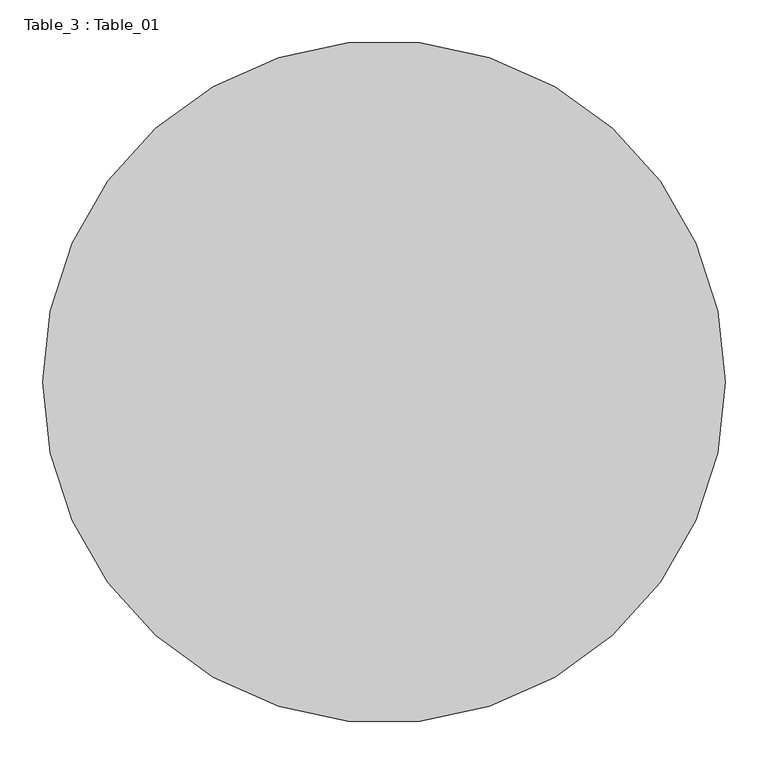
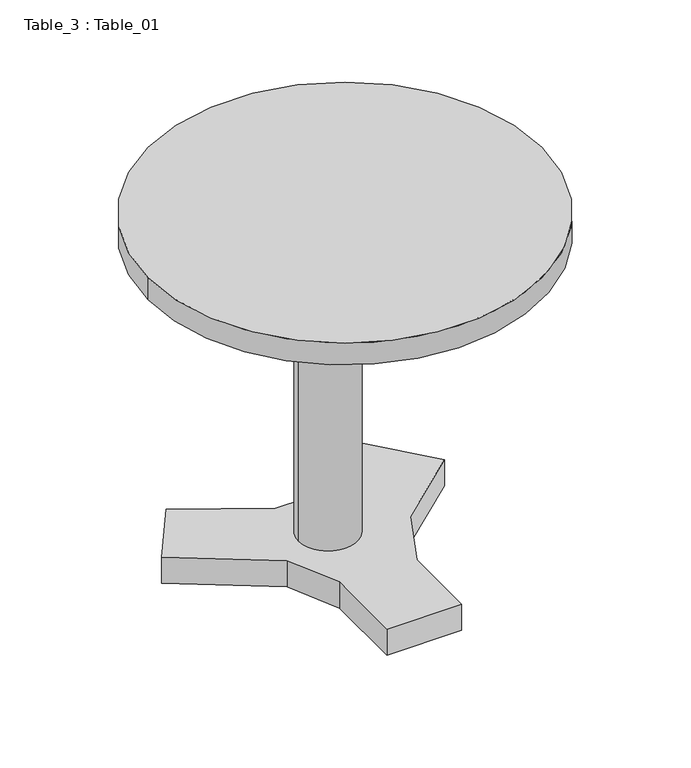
"""IFC4 building model written with IfcOpenShell, lengths in millimetres: furniture geometry, Table_3 : Table_01."""

from ifc_helpers import new_model, si_unit, point, frame, frame_2d, origin, place, context, project, spatial, polyline, circle_curve, trimmed, segment, composite_curve, outline, extrude, source, transform, mapped, element, save


def table_3_table_01_8c0383ce(model_context):
    return source(origin(), model_context, "Body", "SweptSolid", [
        extrude(outline(polyline([(-199.6318256, 5892.5366169), (-85.3655626, 5991.8667639), (17.8657395, 5873.1127354), (-122.291551, 5751.2758616), (-178.0912657, 5631.6129872), (-178.0912657, 5474.1129872), (-329.6318256, 5474.1129872), (-329.6318256, 5640.5580564), (-377.4878763, 5743.1856882), (-562.4754031, 5863.3179927), (-482.913736, 5985.8322163), (-314.6040194, 5892.5366169), (-199.6318256, 5892.5366169)])), frame((0.0, 0.0, 6510.0), z_axis=(0.0, 0.0, 1.0), x_axis=(1.0, 0.0, 0.0)), (0.0, 0.0, 1.0), 56.0556952),
        extrude(outline(composite_curve([segment(trimmed(circle_curve(frame_2d((-270.2133166, 5784.5604473)), 60.0), [point((-330.2133166, 5784.5604473))], [point((-210.2133166, 5784.5604473))], False, "CARTESIAN"), True, "CONTINUOUS"), segment(trimmed(circle_curve(frame_2d((-270.2133166, 5784.5604473)), 60.0), [point((-210.2133166, 5784.5604473))], [point((-330.2133166, 5784.5604473))], False, "CARTESIAN"), True, "CONTINUOUS")], self_intersect=False)), frame((0.0, 0.0, 6510.0), z_axis=(0.0, 0.0, 1.0), x_axis=(1.0, 0.0, 0.0)), (0.0, 0.0, 1.0), 686.8895969),
        extrude(outline(composite_curve([segment(trimmed(circle_curve(frame_2d((-239.530593, 5777.4112697)), 400.0), [point((-639.530593, 5777.4112697))], [point((160.469407, 5777.4112697))], False, "CARTESIAN"), True, "CONTINUOUS"), segment(trimmed(circle_curve(frame_2d((-239.530593, 5777.4112697)), 400.0), [point((160.469407, 5777.4112697))], [point((-639.530593, 5777.4112697))], False, "CARTESIAN"), True, "CONTINUOUS")], self_intersect=False)), frame((0.0, 0.0, 7196.8895969), z_axis=(0.0, 0.0, 1.0), x_axis=(1.0, 0.0, 0.0)), (0.0, 0.0, 1.0), 46.7560711),
    ])


if __name__ == "__main__":
    model = new_model("IFC4")
    model_context = context("Model", 3, world=origin())
    ifc_project = project(units=[si_unit("LENGTHUNIT", "METRE", prefix="MILLI")], contexts=[model_context])
    site = spatial("IfcSite", under=ifc_project)
    building = spatial("IfcBuilding", under=site)
    placement = place(None, origin())
    table_3_table_01_shape = table_3_table_01_8c0383ce(model_context)
    element("IfcFurniture", 1, ObjectType="Table_3 : Table_01", at=placement, inside=building, context=model_context, shape_type="MappedRepresentation", body=[
        mapped(table_3_table_01_shape, transform((0.0, 0.0, 0.0), x_axis=(1.0, 0.0, 0.0), y_axis=(0.0, 1.0, 0.0), z_axis=(0.0, 0.0, 1.0))),
    ])
    save(model, "model.ifc")
